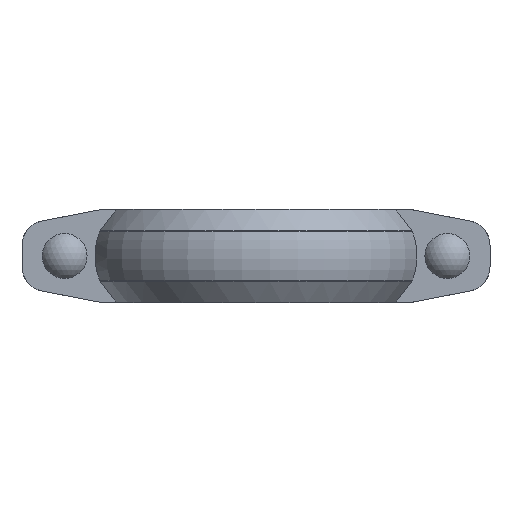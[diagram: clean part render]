
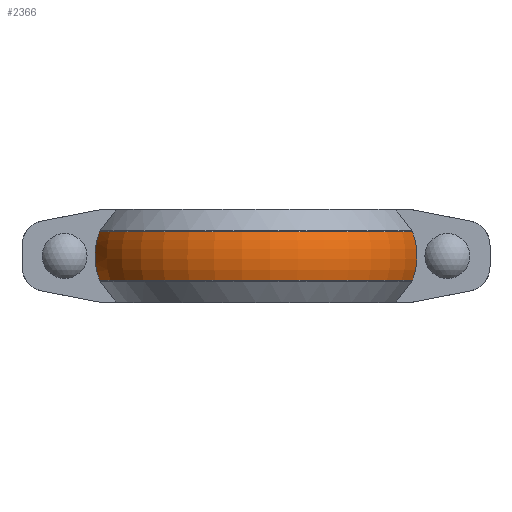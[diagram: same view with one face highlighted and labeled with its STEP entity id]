
A CAD part, front view. The second image highlights one B-rep face of the part: STEP entity #2366.
In plain terms, the highlighted toroidal (fillet/blend) face has major radius 60.048 mm and minor radius 43.203 mm.
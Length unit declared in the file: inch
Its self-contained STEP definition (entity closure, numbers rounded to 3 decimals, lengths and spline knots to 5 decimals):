
#47=TOROIDAL_SURFACE('',#2622,2.36411,1.70089);
#77=B_SPLINE_CURVE_WITH_KNOTS('',3,(#4503,#4504,#4505,#4506,#4507,#4508,
#4509,#4510,#4511,#4512),.UNSPECIFIED.,.F.,.F.,(4,2,2,2,4),(33.65236,
34.27949,35.06014,35.84079,36.46792),
 .UNSPECIFIED.);
#80=B_SPLINE_CURVE_WITH_KNOTS('',3,(#4533,#4534,#4535,#4536,#4537,#4538,
#4539,#4540,#4541,#4542),.UNSPECIFIED.,.F.,.F.,(4,2,2,2,4),(10.27893,
10.90607,11.68671,12.46736,13.0945),
 .UNSPECIFIED.);
#321=FACE_OUTER_BOUND('',#457,.T.);
#457=EDGE_LOOP('',(#2044,#2045,#2046,#2047));
#879=CIRCLE('',#2614,3.96398);
#884=CIRCLE('',#2623,3.96398);
#1085=VERTEX_POINT('',#4495);
#1086=VERTEX_POINT('',#4502);
#1089=VERTEX_POINT('',#4525);
#1090=VERTEX_POINT('',#4532);
#1398=EDGE_CURVE('',#1086,#1085,#77,.T.);
#1402=EDGE_CURVE('',#1090,#1089,#80,.T.);
#1415=EDGE_CURVE('',#1086,#1089,#879,.T.);
#1420=EDGE_CURVE('',#1090,#1085,#884,.T.);
#2044=ORIENTED_EDGE('',*,*,#1402,.T.);
#2045=ORIENTED_EDGE('',*,*,#1415,.F.);
#2046=ORIENTED_EDGE('',*,*,#1398,.T.);
#2047=ORIENTED_EDGE('',*,*,#1420,.F.);
#2366=ADVANCED_FACE('',(#321),#47,.T.);
#2614=AXIS2_PLACEMENT_3D('',#4596,#3255,#3256);
#2622=AXIS2_PLACEMENT_3D('',#4604,#3271,#3272);
#2623=AXIS2_PLACEMENT_3D('',#4605,#3273,#3274);
#3255=DIRECTION('center_axis',(0.,0.,-1.));
#3256=DIRECTION('ref_axis',(0.,1.,0.));
#3271=DIRECTION('center_axis',(0.,0.,-1.));
#3272=DIRECTION('ref_axis',(1.,0.,0.));
#3273=DIRECTION('center_axis',(0.,0.,1.));
#3274=DIRECTION('ref_axis',(0.,1.,0.));
#4495=CARTESIAN_POINT('',(3.76504,-1.24,0.57744));
#4502=CARTESIAN_POINT('',(3.76504,-1.24,-0.57744));
#4503=CARTESIAN_POINT('Ctrl Pts',(3.76504,-1.24,-0.57744));
#4504=CARTESIAN_POINT('Ctrl Pts',(3.79523,-1.24,-0.49801));
#4505=CARTESIAN_POINT('Ctrl Pts',(3.82069,-1.24,-0.41161));
#4506=CARTESIAN_POINT('Ctrl Pts',(3.86089,-1.24,-0.21429));
#4507=CARTESIAN_POINT('Ctrl Pts',(3.87126,-1.24,-0.10245));
#4508=CARTESIAN_POINT('Ctrl Pts',(3.87126,-1.24,0.10245));
#4509=CARTESIAN_POINT('Ctrl Pts',(3.86089,-1.24,0.21429));
#4510=CARTESIAN_POINT('Ctrl Pts',(3.82069,-1.24,0.41161));
#4511=CARTESIAN_POINT('Ctrl Pts',(3.79523,-1.24,0.49801));
#4512=CARTESIAN_POINT('Ctrl Pts',(3.76504,-1.24,0.57744));
#4525=CARTESIAN_POINT('',(-3.76504,-1.24,-0.57744));
#4532=CARTESIAN_POINT('',(-3.76504,-1.24,0.57744));
#4533=CARTESIAN_POINT('Ctrl Pts',(-3.76504,-1.24,0.57744));
#4534=CARTESIAN_POINT('Ctrl Pts',(-3.79523,-1.24,0.49801));
#4535=CARTESIAN_POINT('Ctrl Pts',(-3.82069,-1.24,0.41161));
#4536=CARTESIAN_POINT('Ctrl Pts',(-3.86089,-1.24,0.21429));
#4537=CARTESIAN_POINT('Ctrl Pts',(-3.87126,-1.24,0.10245));
#4538=CARTESIAN_POINT('Ctrl Pts',(-3.87126,-1.24,-0.10245));
#4539=CARTESIAN_POINT('Ctrl Pts',(-3.86089,-1.24,-0.21429));
#4540=CARTESIAN_POINT('Ctrl Pts',(-3.82069,-1.24,-0.41161));
#4541=CARTESIAN_POINT('Ctrl Pts',(-3.79523,-1.24,-0.49801));
#4542=CARTESIAN_POINT('Ctrl Pts',(-3.76504,-1.24,-0.57744));
#4596=CARTESIAN_POINT('Origin',(0.,0.,-0.57744));
#4604=CARTESIAN_POINT('Origin',(0.,0.,0.));
#4605=CARTESIAN_POINT('Origin',(0.,0.,0.57744));
